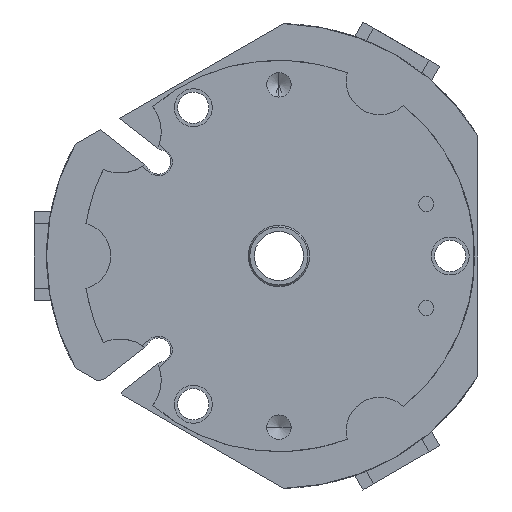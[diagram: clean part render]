
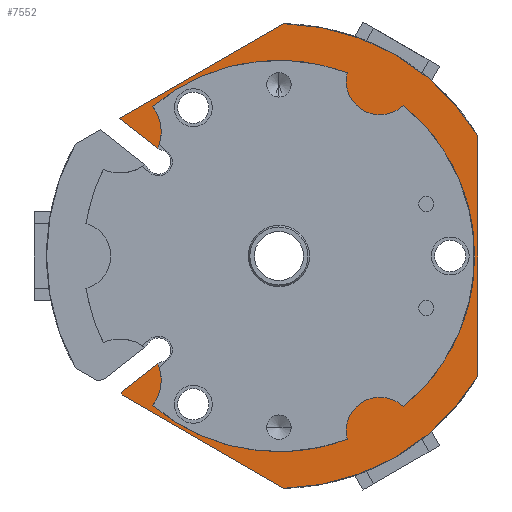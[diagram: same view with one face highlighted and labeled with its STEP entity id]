
A CAD part, front view. The second image highlights one B-rep face of the part: STEP entity #7552.
In plain terms, the highlighted planar face has unit normal (0, -1, 0).
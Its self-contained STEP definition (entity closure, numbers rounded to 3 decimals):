
#63 = CARTESIAN_POINT ( 'NONE',  ( 16.5, -21., 21.079 ) ) ;
#138 = CARTESIAN_POINT ( 'NONE',  ( 16.5, -21., -28.579 ) ) ;
#183 = CIRCLE ( 'NONE', #12138, 38. ) ;
#195 = VERTEX_POINT ( 'NONE', #9437 ) ;
#387 = CIRCLE ( 'NONE', #11632, 32. ) ;
#540 = ORIENTED_EDGE ( 'NONE', *, *, #8430, .F. ) ;
#756 = CARTESIAN_POINT ( 'NONE',  ( 0., -21., 0. ) ) ;
#841 = CARTESIAN_POINT ( 'NONE',  ( -26.034, -21., 22.497 ) ) ;
#861 = PLANE ( 'NONE',  #5764 ) ;
#911 = VECTOR ( 'NONE', #12970, 1000. ) ;
#1192 = EDGE_CURVE ( 'NONE', #10229, #13398, #8757, .T. ) ;
#1206 = CARTESIAN_POINT ( 'NONE',  ( 0.803, -21., 37.992 ) ) ;
#1229 = EDGE_CURVE ( 'NONE', #8633, #2542, #8031, .T. ) ;
#1234 = EDGE_CURVE ( 'NONE', #2173, #8633, #4564, .T. ) ;
#1286 = DIRECTION ( 'NONE',  ( 0.866, 0., -0.5 ) ) ;
#1341 = EDGE_CURVE ( 'NONE', #9148, #11010, #5497, .T. ) ;
#1527 = ORIENTED_EDGE ( 'NONE', *, *, #1234, .T. ) ;
#1763 = ORIENTED_EDGE ( 'NONE', *, *, #2287, .T. ) ;
#1863 = CARTESIAN_POINT ( 'NONE',  ( 16.5, -21., 28.579 ) ) ;
#1917 = DIRECTION ( 'NONE',  ( 0., 0., -1. ) ) ;
#1997 = CARTESIAN_POINT ( 'NONE',  ( 21.879, -21., 23.352 ) ) ;
#2138 = DIRECTION ( 'NONE',  ( -0.788, 0., -0.616 ) ) ;
#2156 = CARTESIAN_POINT ( 'NONE',  ( 9.284, -21., 30.624 ) ) ;
#2159 = CARTESIAN_POINT ( 'NONE',  ( 9.284, -21., -30.624 ) ) ;
#2161 = AXIS2_PLACEMENT_3D ( 'NONE', #9952, #13319, #1917 ) ;
#2173 = VERTEX_POINT ( 'NONE', #13285 ) ;
#2287 = EDGE_CURVE ( 'NONE', #10707, #5273, #14415, .T. ) ;
#2319 = EDGE_CURVE ( 'NONE', #13398, #11169, #8558, .T. ) ;
#2542 = VERTEX_POINT ( 'NONE', #9127 ) ;
#2958 = ORIENTED_EDGE ( 'NONE', *, *, #1341, .T. ) ;
#3022 = DIRECTION ( 'NONE',  ( 0., -1., 0. ) ) ;
#3031 = DIRECTION ( 'NONE',  ( 0., 0., -1. ) ) ;
#3107 = CIRCLE ( 'NONE', #13510, 7.5 ) ;
#3184 = CARTESIAN_POINT ( 'NONE',  ( 0., -21., -32. ) ) ;
#3241 = LINE ( 'NONE', #1206, #5233 ) ;
#3302 = DIRECTION ( 'NONE',  ( 0., 0., -1. ) ) ;
#3332 = DIRECTION ( 'NONE',  ( 0., -1., 0. ) ) ;
#3340 = ORIENTED_EDGE ( 'NONE', *, *, #12930, .T. ) ;
#3355 = CARTESIAN_POINT ( 'NONE',  ( -19.81, -21., -17.635 ) ) ;
#3449 = ORIENTED_EDGE ( 'NONE', *, *, #9497, .F. ) ;
#3453 = CARTESIAN_POINT ( 'NONE',  ( -19.81, -21., 17.635 ) ) ;
#3493 = CARTESIAN_POINT ( 'NONE',  ( 32.5, -21., 19.691 ) ) ;
#3518 = CARTESIAN_POINT ( 'NONE',  ( 32.5, -21., 0. ) ) ;
#3796 = DIRECTION ( 'NONE',  ( 0., 0., -1. ) ) ;
#3971 = CARTESIAN_POINT ( 'NONE',  ( -19.81, -21., -17.635 ) ) ;
#3998 = DIRECTION ( 'NONE',  ( 0., 0., 1. ) ) ;
#4168 = DIRECTION ( 'NONE',  ( 0., -1., 0. ) ) ;
#4188 = EDGE_CURVE ( 'NONE', #5402, #11568, #14344, .T. ) ;
#4206 = EDGE_CURVE ( 'NONE', #14325, #5402, #12325, .T. ) ;
#4253 = CARTESIAN_POINT ( 'NONE',  ( 32.5, -21., -19.691 ) ) ;
#4564 = CIRCLE ( 'NONE', #14049, 6.75 ) ;
#4659 = CARTESIAN_POINT ( 'NONE',  ( 0., -21., 0. ) ) ;
#4928 = VECTOR ( 'NONE', #2138, 1000. ) ;
#5129 = ORIENTED_EDGE ( 'NONE', *, *, #8386, .T. ) ;
#5233 = VECTOR ( 'NONE', #11630, 1000. ) ;
#5264 = DIRECTION ( 'NONE',  ( 0., -1., 0. ) ) ;
#5273 = VERTEX_POINT ( 'NONE', #14063 ) ;
#5402 = VERTEX_POINT ( 'NONE', #63 ) ;
#5497 = LINE ( 'NONE', #14021, #10429 ) ;
#5499 = EDGE_CURVE ( 'NONE', #9338, #7661, #14126, .T. ) ;
#5501 = DIRECTION ( 'NONE',  ( 0.788, 0., -0.616 ) ) ;
#5686 = DIRECTION ( 'NONE',  ( 0., 0., -1. ) ) ;
#5764 = AXIS2_PLACEMENT_3D ( 'NONE', #756, #11391, #3031 ) ;
#5818 = CARTESIAN_POINT ( 'NONE',  ( -20.659, -21., 24.438 ) ) ;
#5977 = DIRECTION ( 'NONE',  ( 0., 0., 1. ) ) ;
#6317 = ORIENTED_EDGE ( 'NONE', *, *, #4188, .T. ) ;
#6352 = AXIS2_PLACEMENT_3D ( 'NONE', #4659, #3332, #5686 ) ;
#6587 = FACE_OUTER_BOUND ( 'NONE', #10291, .T. ) ;
#6606 = ORIENTED_EDGE ( 'NONE', *, *, #1229, .T. ) ;
#7094 = LINE ( 'NONE', #3518, #12197 ) ;
#7311 = CARTESIAN_POINT ( 'NONE',  ( 0., -21., 0. ) ) ;
#7313 = CARTESIAN_POINT ( 'NONE',  ( -25.601, -21., -22.747 ) ) ;
#7425 = CIRCLE ( 'NONE', #11565, 32. ) ;
#7552 = ADVANCED_FACE ( 'NONE', ( #6587 ), #861, .T. ) ;
#7661 = VERTEX_POINT ( 'NONE', #2159 ) ;
#7967 = CIRCLE ( 'NONE', #6352, 32. ) ;
#8031 = LINE ( 'NONE', #3355, #4928 ) ;
#8299 = CARTESIAN_POINT ( 'NONE',  ( -26.034, -21., 22.497 ) ) ;
#8386 = EDGE_CURVE ( 'NONE', #12075, #10707, #7094, .T. ) ;
#8430 = EDGE_CURVE ( 'NONE', #14325, #11169, #387, .T. ) ;
#8504 = CARTESIAN_POINT ( 'NONE',  ( 0., -21., 0. ) ) ;
#8558 = CIRCLE ( 'NONE', #9649, 6.75 ) ;
#8633 = VERTEX_POINT ( 'NONE', #3971 ) ;
#8757 = LINE ( 'NONE', #841, #9480 ) ;
#8903 = DIRECTION ( 'NONE',  ( 0., 0., -1. ) ) ;
#9079 = ORIENTED_EDGE ( 'NONE', *, *, #14329, .T. ) ;
#9100 = CARTESIAN_POINT ( 'NONE',  ( -26.004, -21., -20.317 ) ) ;
#9127 = CARTESIAN_POINT ( 'NONE',  ( -25.731, -21., -22.261 ) ) ;
#9148 = VERTEX_POINT ( 'NONE', #7313 ) ;
#9308 = CARTESIAN_POINT ( 'NONE',  ( 0., -21., 0. ) ) ;
#9338 = VERTEX_POINT ( 'NONE', #3184 ) ;
#9437 = CARTESIAN_POINT ( 'NONE',  ( 21.879, -21., -23.352 ) ) ;
#9480 = VECTOR ( 'NONE', #5501, 1000. ) ;
#9497 = EDGE_CURVE ( 'NONE', #2173, #9338, #7967, .T. ) ;
#9649 = AXIS2_PLACEMENT_3D ( 'NONE', #14613, #14665, #14721 ) ;
#9910 = ORIENTED_EDGE ( 'NONE', *, *, #4206, .T. ) ;
#9917 = CARTESIAN_POINT ( 'NONE',  ( 0., -21., 0. ) ) ;
#9952 = CARTESIAN_POINT ( 'NONE',  ( 16.5, -21., 28.579 ) ) ;
#10183 = ORIENTED_EDGE ( 'NONE', *, *, #14592, .F. ) ;
#10229 = VERTEX_POINT ( 'NONE', #8299 ) ;
#10291 = EDGE_LOOP ( 'NONE', ( #14099, #13204, #540, #9910, #6317, #10183, #3340, #12037, #3449, #1527, #6606, #12958, #2958, #11770, #5129, #1763, #9079 ) ) ;
#10299 = DIRECTION ( 'NONE',  ( 0., -1., 0. ) ) ;
#10429 = VECTOR ( 'NONE', #1286, 1000. ) ;
#10608 = DIRECTION ( 'NONE',  ( 0., 0., -1. ) ) ;
#10707 = VERTEX_POINT ( 'NONE', #3493 ) ;
#10788 = DIRECTION ( 'NONE',  ( 0., -1., 0. ) ) ;
#10978 = DIRECTION ( 'NONE',  ( 0., 0., -1. ) ) ;
#11010 = VERTEX_POINT ( 'NONE', #13734 ) ;
#11169 = VERTEX_POINT ( 'NONE', #5818 ) ;
#11391 = DIRECTION ( 'NONE',  ( 0., -1., 0. ) ) ;
#11565 = AXIS2_PLACEMENT_3D ( 'NONE', #8504, #4168, #8903 ) ;
#11568 = VERTEX_POINT ( 'NONE', #1997 ) ;
#11630 = DIRECTION ( 'NONE',  ( -0.866, 0., -0.5 ) ) ;
#11632 = AXIS2_PLACEMENT_3D ( 'NONE', #9308, #12747, #11728 ) ;
#11728 = DIRECTION ( 'NONE',  ( 0., 0., -1. ) ) ;
#11770 = ORIENTED_EDGE ( 'NONE', *, *, #14057, .T. ) ;
#11864 = AXIS2_PLACEMENT_3D ( 'NONE', #7311, #10788, #3796 ) ;
#12037 = ORIENTED_EDGE ( 'NONE', *, *, #5499, .F. ) ;
#12075 = VERTEX_POINT ( 'NONE', #4253 ) ;
#12138 = AXIS2_PLACEMENT_3D ( 'NONE', #14558, #12349, #13477 ) ;
#12197 = VECTOR ( 'NONE', #5977, 1000. ) ;
#12325 = CIRCLE ( 'NONE', #2161, 7.5 ) ;
#12349 = DIRECTION ( 'NONE',  ( 0., -1., 0. ) ) ;
#12747 = DIRECTION ( 'NONE',  ( 0., -1., 0. ) ) ;
#12930 = EDGE_CURVE ( 'NONE', #195, #7661, #3107, .T. ) ;
#12958 = ORIENTED_EDGE ( 'NONE', *, *, #13848, .F. ) ;
#12970 = DIRECTION ( 'NONE',  ( -0.259, 0., 0.966 ) ) ;
#13204 = ORIENTED_EDGE ( 'NONE', *, *, #2319, .T. ) ;
#13285 = CARTESIAN_POINT ( 'NONE',  ( -20.659, -21., -24.438 ) ) ;
#13319 = DIRECTION ( 'NONE',  ( 0., -1., 0. ) ) ;
#13398 = VERTEX_POINT ( 'NONE', #3453 ) ;
#13477 = DIRECTION ( 'NONE',  ( 0., 0., 1. ) ) ;
#13510 = AXIS2_PLACEMENT_3D ( 'NONE', #138, #14230, #10608 ) ;
#13669 = LINE ( 'NONE', #13999, #911 ) ;
#13734 = CARTESIAN_POINT ( 'NONE',  ( 0.803, -21., -37.992 ) ) ;
#13783 = AXIS2_PLACEMENT_3D ( 'NONE', #9917, #5264, #3998 ) ;
#13848 = EDGE_CURVE ( 'NONE', #9148, #2542, #13669, .T. ) ;
#13999 = CARTESIAN_POINT ( 'NONE',  ( -25.731, -21., -22.261 ) ) ;
#14021 = CARTESIAN_POINT ( 'NONE',  ( -25.601, -21., -22.747 ) ) ;
#14049 = AXIS2_PLACEMENT_3D ( 'NONE', #9100, #10299, #3302 ) ;
#14057 = EDGE_CURVE ( 'NONE', #11010, #12075, #183, .T. ) ;
#14063 = CARTESIAN_POINT ( 'NONE',  ( 0.803, -21., 37.992 ) ) ;
#14099 = ORIENTED_EDGE ( 'NONE', *, *, #1192, .T. ) ;
#14126 = CIRCLE ( 'NONE', #11864, 32. ) ;
#14230 = DIRECTION ( 'NONE',  ( 0., -1., 0. ) ) ;
#14325 = VERTEX_POINT ( 'NONE', #2156 ) ;
#14329 = EDGE_CURVE ( 'NONE', #5273, #10229, #3241, .T. ) ;
#14344 = CIRCLE ( 'NONE', #14952, 7.5 ) ;
#14415 = CIRCLE ( 'NONE', #13783, 38. ) ;
#14558 = CARTESIAN_POINT ( 'NONE',  ( 0., -21., 0. ) ) ;
#14592 = EDGE_CURVE ( 'NONE', #195, #11568, #7425, .T. ) ;
#14613 = CARTESIAN_POINT ( 'NONE',  ( -26.004, -21., 20.317 ) ) ;
#14665 = DIRECTION ( 'NONE',  ( 0., -1., 0. ) ) ;
#14721 = DIRECTION ( 'NONE',  ( 0., 0., -1. ) ) ;
#14952 = AXIS2_PLACEMENT_3D ( 'NONE', #1863, #3022, #10978 ) ;
